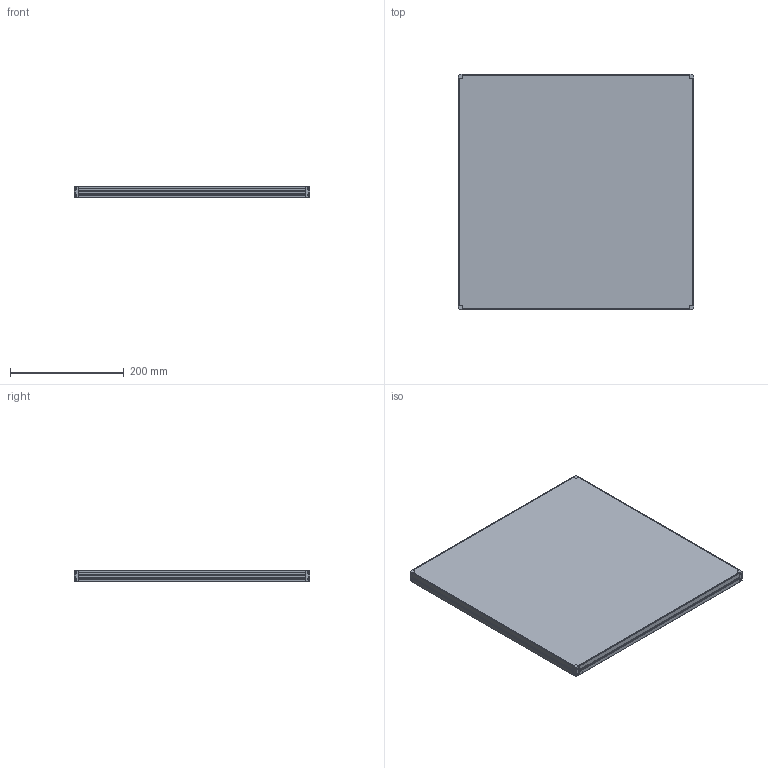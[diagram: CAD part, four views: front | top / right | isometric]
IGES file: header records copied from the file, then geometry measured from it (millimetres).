
Start section: SolidWorks IGES file using analytic representation for surfaces
Global section: file name: E:\SynologyDrive\新款图纸\标准产品\背光\F400400\CNC\F400400.IGS; native system: SolidWorks 2020; preprocessor: SolidWorks 2020; author: Administrator; date: 201109.150002; units: millimetre
Bounding box: 415 x 415 x 20 mm (x, y, z)
Surface area: 818139.2 mm2 (no closed solid volume)
Topology: 0 solids, 0 shells, 376 faces, 5020 edges, 5020 vertices
Faces by surface type: bspline 236, revolution 140
